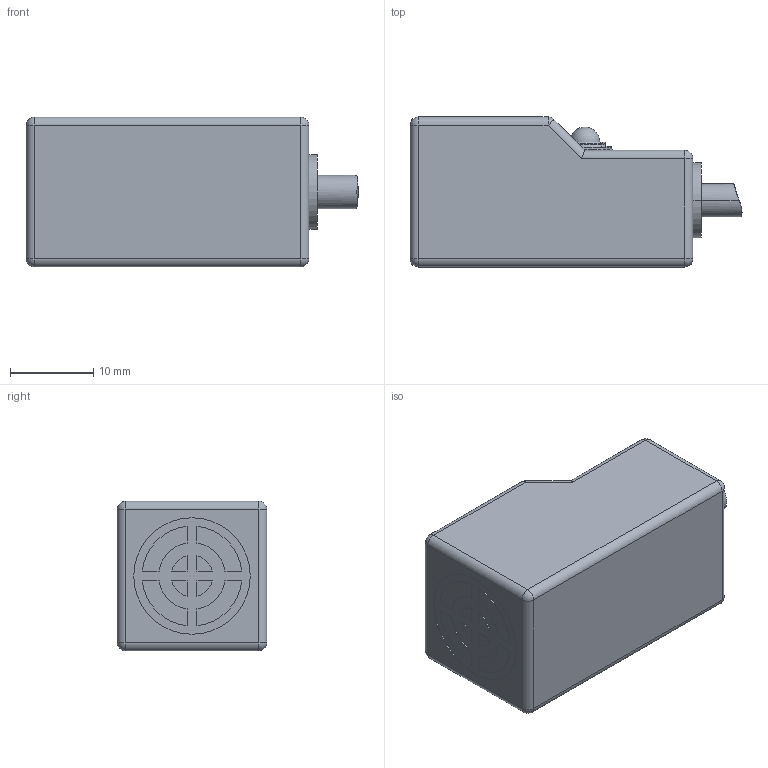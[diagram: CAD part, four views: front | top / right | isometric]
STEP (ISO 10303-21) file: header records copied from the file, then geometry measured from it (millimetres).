
FILE_DESCRIPTION((''),'2;1');
FILE_NAME('PART2','2019-07-08T',('Administrator'),(''),'PRO/ENGINEER BY PARAMETRIC TECHNOLOGY CORPORATION, 2012130','PRO/ENGINEER BY PARAMETRIC TECHNOLOGY CORPORATION, 2012130','');
FILE_SCHEMA(('AUTOMOTIVE_DESIGN { 1 0 10303 214 1 1 1 1 }'));
Length unit declared in the file: millimetre
Products named in the file (1): PART2
Bounding box: 39.89 x 18 x 18 mm (x, y, z)
Volume: 9933.6 mm3; surface area: 2989.1 mm2
Topology: 1 solids, 1 shells, 109 faces, 250 edges, 155 vertices
Faces by surface type: plane 47, cylinder 45, sphere 12, torus 4, extrusion 1
Entity records: 3958 total; most frequent: CARTESIAN_POINT 632, DIRECTION 543, ORIENTED_EDGE 496, PRESENTATION_STYLE_ASSIGNMENT 249, STYLED_ITEM 249, CURVE_STYLE 248, EDGE_CURVE 248, AXIS2_PLACEMENT_3D 202
